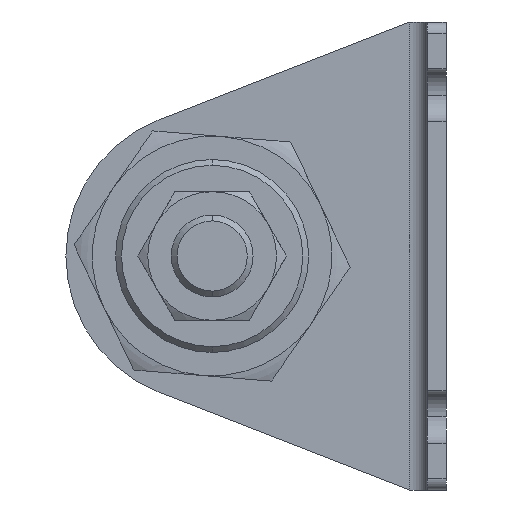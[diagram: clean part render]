
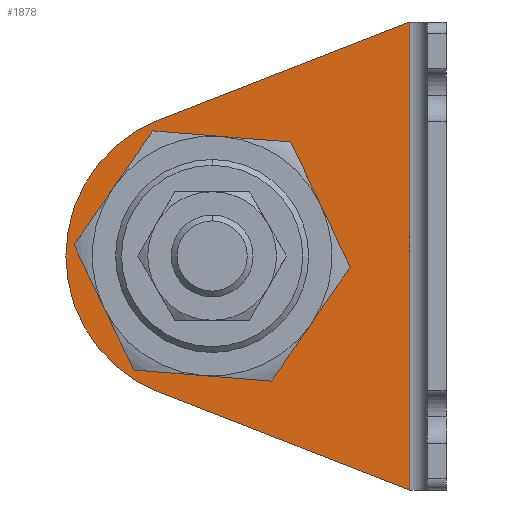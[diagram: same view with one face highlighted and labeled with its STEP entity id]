
A CAD part, left-side view. The second image highlights one B-rep face of the part: STEP entity #1878.
In plain terms, the highlighted planar face has unit normal (-1, 0, 0) as drawn and (1, 0, 0) by its records, which use the part's own axes.
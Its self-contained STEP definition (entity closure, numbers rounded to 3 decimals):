
#95 = EDGE_CURVE ( 'NONE', #4318, #150, #3296, .T. ) ;
#150 = VERTEX_POINT ( 'NONE', #3118 ) ;
#151 = VECTOR ( 'NONE', #2089, 1000. ) ;
#186 = AXIS2_PLACEMENT_3D ( 'NONE', #2466, #3051, #885 ) ;
#238 = DIRECTION ( 'NONE',  ( 1., 0., 0. ) ) ;
#341 = CARTESIAN_POINT ( 'NONE',  ( 3.2, 6.2, 0. ) ) ;
#535 = DIRECTION ( 'NONE',  ( 0., 1., 0. ) ) ;
#626 = DIRECTION ( 'NONE',  ( 0., 0.932, 0.363 ) ) ;
#635 = CARTESIAN_POINT ( 'NONE',  ( 3.2, 56.5, -40. ) ) ;
#707 = AXIS2_PLACEMENT_3D ( 'NONE', #4375, #2720, #2140 ) ;
#788 = CARTESIAN_POINT ( 'NONE',  ( 3.2, 49.076, -16.706 ) ) ;
#814 = FACE_OUTER_BOUND ( 'NONE', #3545, .T. ) ;
#837 = VERTEX_POINT ( 'NONE', #848 ) ;
#848 = CARTESIAN_POINT ( 'NONE',  ( 3.2, 6.2, -80. ) ) ;
#885 = DIRECTION ( 'NONE',  ( 0., 1., 0. ) ) ;
#934 = CARTESIAN_POINT ( 'NONE',  ( 3.2, 23.5, -40. ) ) ;
#1011 = DIRECTION ( 'NONE',  ( 1., 0., 0. ) ) ;
#1175 = CIRCLE ( 'NONE', #707, 16.5 ) ;
#1271 = VERTEX_POINT ( 'NONE', #635 ) ;
#1294 = CARTESIAN_POINT ( 'NONE',  ( 3.2, 3.595, -81.015 ) ) ;
#1396 = CARTESIAN_POINT ( 'NONE',  ( 3.2, 40., -40. ) ) ;
#1397 = DIRECTION ( 'NONE',  ( 0., 0.932, -0.363 ) ) ;
#1598 = LINE ( 'NONE', #1892, #151 ) ;
#1604 = EDGE_CURVE ( 'NONE', #837, #4318, #4007, .T. ) ;
#1612 = DIRECTION ( 'NONE',  ( 0., 1., 0. ) ) ;
#1727 = CARTESIAN_POINT ( 'NONE',  ( 3.2, 40., -40. ) ) ;
#1798 = DIRECTION ( 'NONE',  ( 1., 0., 0. ) ) ;
#1878 = ADVANCED_FACE ( 'NONE', ( #4247, #814 ), #2978, .T. ) ;
#1892 = CARTESIAN_POINT ( 'NONE',  ( 3.2, 6.2, -80. ) ) ;
#1896 = VECTOR ( 'NONE', #1397, 1000. ) ;
#2043 = CARTESIAN_POINT ( 'NONE',  ( 3.2, 30.657, -9.529 ) ) ;
#2089 = DIRECTION ( 'NONE',  ( 0., 0., -1. ) ) ;
#2131 = VERTEX_POINT ( 'NONE', #788 ) ;
#2140 = DIRECTION ( 'NONE',  ( 0., 1., 0. ) ) ;
#2150 = ORIENTED_EDGE ( 'NONE', *, *, #1604, .T. ) ;
#2215 = AXIS2_PLACEMENT_3D ( 'NONE', #1727, #1798, #4380 ) ;
#2221 = VERTEX_POINT ( 'NONE', #341 ) ;
#2245 = CIRCLE ( 'NONE', #3404, 25. ) ;
#2309 = VERTEX_POINT ( 'NONE', #934 ) ;
#2347 = EDGE_CURVE ( 'NONE', #2221, #837, #1598, .T. ) ;
#2466 = CARTESIAN_POINT ( 'NONE',  ( 3.2, 3.2, -80. ) ) ;
#2558 = ORIENTED_EDGE ( 'NONE', *, *, #95, .T. ) ;
#2614 = EDGE_CURVE ( 'NONE', #150, #2131, #2245, .T. ) ;
#2646 = ORIENTED_EDGE ( 'NONE', *, *, #3887, .F. ) ;
#2720 = DIRECTION ( 'NONE',  ( 1., 0., 0. ) ) ;
#2788 = CARTESIAN_POINT ( 'NONE',  ( 3.2, 40., -40. ) ) ;
#2878 = CIRCLE ( 'NONE', #4238, 16.5 ) ;
#2925 = CARTESIAN_POINT ( 'NONE',  ( 3.2, 49.076, -63.294 ) ) ;
#2978 = PLANE ( 'NONE',  #186 ) ;
#3051 = DIRECTION ( 'NONE',  ( 1., 0., 0. ) ) ;
#3094 = EDGE_CURVE ( 'NONE', #2221, #2131, #3626, .T. ) ;
#3118 = CARTESIAN_POINT ( 'NONE',  ( 3.2, 65., -40. ) ) ;
#3241 = ORIENTED_EDGE ( 'NONE', *, *, #2347, .T. ) ;
#3296 = CIRCLE ( 'NONE', #2215, 25. ) ;
#3404 = AXIS2_PLACEMENT_3D ( 'NONE', #1396, #1011, #1612 ) ;
#3448 = ORIENTED_EDGE ( 'NONE', *, *, #3094, .F. ) ;
#3486 = EDGE_LOOP ( 'NONE', ( #3930, #2646 ) ) ;
#3545 = EDGE_LOOP ( 'NONE', ( #2150, #2558, #3646, #3448, #3241 ) ) ;
#3626 = LINE ( 'NONE', #2043, #1896 ) ;
#3646 = ORIENTED_EDGE ( 'NONE', *, *, #2614, .T. ) ;
#3886 = VECTOR ( 'NONE', #626, 1000. ) ;
#3887 = EDGE_CURVE ( 'NONE', #2309, #1271, #2878, .T. ) ;
#3930 = ORIENTED_EDGE ( 'NONE', *, *, #4147, .F. ) ;
#4007 = LINE ( 'NONE', #1294, #3886 ) ;
#4147 = EDGE_CURVE ( 'NONE', #1271, #2309, #1175, .T. ) ;
#4238 = AXIS2_PLACEMENT_3D ( 'NONE', #2788, #238, #535 ) ;
#4247 = FACE_BOUND ( 'NONE', #3486, .T. ) ;
#4318 = VERTEX_POINT ( 'NONE', #2925 ) ;
#4375 = CARTESIAN_POINT ( 'NONE',  ( 3.2, 40., -40. ) ) ;
#4380 = DIRECTION ( 'NONE',  ( 0., 1., 0. ) ) ;
